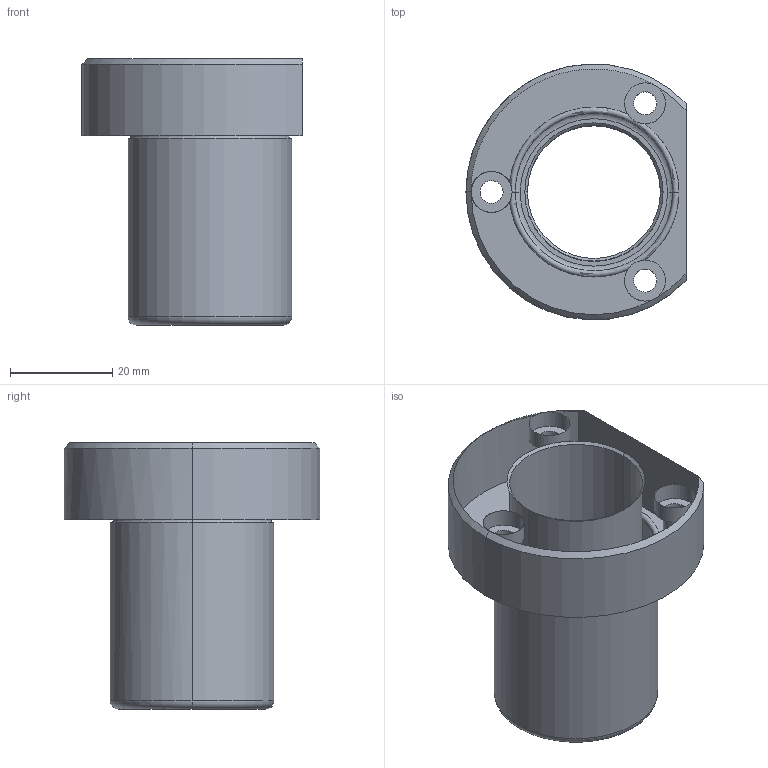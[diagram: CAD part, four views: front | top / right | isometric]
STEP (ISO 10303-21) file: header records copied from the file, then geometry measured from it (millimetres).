
FILE_DESCRIPTION(('CATIA V5 STEP Exchange'),'2;1');
FILE_NAME('C:\Users\Utente\Desktop\IO LAVORO\3D X SITO CF\X SITO\737\737-20.stp','2021-01-17T17:06:48+00:00',('none'),('none'),'CATIA Version 5 Release 20 GA (IN-10)','CATIA V5 STEP AP203','none');
FILE_SCHEMA(('CONFIG_CONTROL_DESIGN'));
Length unit declared in the file: millimetre
Products named in the file (1): 737-20
Bounding box: 43 x 49.97 x 52 mm (x, y, z)
Volume: 27810.5 mm3; surface area: 13423.7 mm2
Topology: 1 solids, 1 shells, 37 faces, 86 edges, 52 vertices
Faces by surface type: cylinder 18, plane 7, cone 6, torus 6
Entity records: 1289 total; most frequent: CARTESIAN_POINT 425, ORIENTED_EDGE 172, DIRECTION 145, EDGE_CURVE 86, AXIS2_PLACEMENT_3D 83, VERTEX_POINT 52, EDGE_LOOP 46, CIRCLE 45
